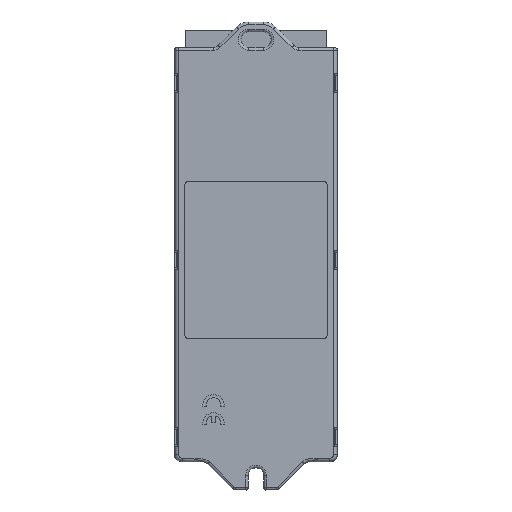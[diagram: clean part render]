
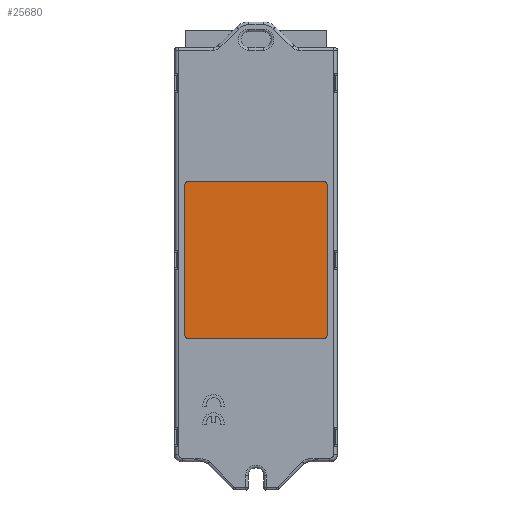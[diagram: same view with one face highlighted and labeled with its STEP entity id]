
A CAD part, front view. The second image highlights one B-rep face of the part: STEP entity #25680.
In plain terms, the highlighted planar face has unit normal (0, -1, 0).
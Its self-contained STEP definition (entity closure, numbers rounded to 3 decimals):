
#1735=CIRCLE('',#27720,1.);
#1737=CIRCLE('',#27724,1.);
#1738=CIRCLE('',#27727,1.);
#1739=CIRCLE('',#27728,1.);
#2910=FACE_OUTER_BOUND('',#4329,.T.);
#4329=EDGE_LOOP('',(#20771,#20772,#20773,#20774,#20775,#20776,#20777,#20778));
#6639=LINE('',#43149,#9024);
#6643=LINE('',#43161,#9028);
#6645=LINE('',#43165,#9030);
#6646=LINE('',#43169,#9031);
#9024=VECTOR('',#33596,10.);
#9028=VECTOR('',#33608,10.);
#9030=VECTOR('',#33612,10.);
#9031=VECTOR('',#33615,10.);
#11292=VERTEX_POINT('',#43140);
#11293=VERTEX_POINT('',#43142);
#11295=VERTEX_POINT('',#43148);
#11297=VERTEX_POINT('',#43154);
#11299=VERTEX_POINT('',#43160);
#11300=VERTEX_POINT('',#43164);
#11301=VERTEX_POINT('',#43166);
#11302=VERTEX_POINT('',#43168);
#14557=EDGE_CURVE('',#11292,#11293,#1735,.T.);
#14560=EDGE_CURVE('',#11293,#11295,#6639,.T.);
#14563=EDGE_CURVE('',#11295,#11297,#1737,.T.);
#14566=EDGE_CURVE('',#11297,#11299,#6643,.T.);
#14568=EDGE_CURVE('',#11300,#11292,#6645,.T.);
#14569=EDGE_CURVE('',#11301,#11300,#1738,.T.);
#14570=EDGE_CURVE('',#11302,#11301,#6646,.T.);
#14571=EDGE_CURVE('',#11299,#11302,#1739,.T.);
#20771=ORIENTED_EDGE('',*,*,#14566,.F.);
#20772=ORIENTED_EDGE('',*,*,#14563,.F.);
#20773=ORIENTED_EDGE('',*,*,#14560,.F.);
#20774=ORIENTED_EDGE('',*,*,#14557,.F.);
#20775=ORIENTED_EDGE('',*,*,#14568,.F.);
#20776=ORIENTED_EDGE('',*,*,#14569,.F.);
#20777=ORIENTED_EDGE('',*,*,#14570,.F.);
#20778=ORIENTED_EDGE('',*,*,#14571,.F.);
#23216=PLANE('',#27726);
#25680=ADVANCED_FACE('',(#2910),#23216,.T.);
#27720=AXIS2_PLACEMENT_3D('',#43143,#33590,#33591);
#27724=AXIS2_PLACEMENT_3D('',#43155,#33602,#33603);
#27726=AXIS2_PLACEMENT_3D('',#43163,#33610,#33611);
#27727=AXIS2_PLACEMENT_3D('',#43167,#33613,#33614);
#27728=AXIS2_PLACEMENT_3D('',#43170,#33616,#33617);
#33590=DIRECTION('center_axis',(0.,1.,0.));
#33591=DIRECTION('ref_axis',(-1.,0.,0.));
#33596=DIRECTION('',(0.,0.,1.));
#33602=DIRECTION('center_axis',(0.,1.,0.));
#33603=DIRECTION('ref_axis',(0.,0.,1.));
#33608=DIRECTION('',(1.,0.,0.));
#33610=DIRECTION('center_axis',(0.,-1.,0.));
#33611=DIRECTION('ref_axis',(0.,0.,-1.));
#33612=DIRECTION('',(-1.,0.,0.));
#33613=DIRECTION('center_axis',(0.,1.,0.));
#33614=DIRECTION('ref_axis',(0.,0.,-1.));
#33615=DIRECTION('',(0.,0.,-1.));
#33616=DIRECTION('center_axis',(0.,1.,0.));
#33617=DIRECTION('ref_axis',(1.,0.,0.));
#43140=CARTESIAN_POINT('',(-19.1,-7.35,-22.2));
#43142=CARTESIAN_POINT('',(-20.1,-7.35,-21.2));
#43143=CARTESIAN_POINT('Origin',(-19.1,-7.35,-21.2));
#43148=CARTESIAN_POINT('',(-20.1,-7.35,21.2));
#43149=CARTESIAN_POINT('',(-20.1,-7.35,21.2));
#43154=CARTESIAN_POINT('',(-19.1,-7.35,22.2));
#43155=CARTESIAN_POINT('Origin',(-19.1,-7.35,21.2));
#43160=CARTESIAN_POINT('',(19.1,-7.35,22.2));
#43161=CARTESIAN_POINT('',(19.1,-7.35,22.2));
#43163=CARTESIAN_POINT('Origin',(0.,-7.35,0.));
#43164=CARTESIAN_POINT('',(19.1,-7.35,-22.2));
#43165=CARTESIAN_POINT('',(-19.1,-7.35,-22.2));
#43166=CARTESIAN_POINT('',(20.1,-7.35,-21.2));
#43167=CARTESIAN_POINT('Origin',(19.1,-7.35,-21.2));
#43168=CARTESIAN_POINT('',(20.1,-7.35,21.2));
#43169=CARTESIAN_POINT('',(20.1,-7.35,-21.2));
#43170=CARTESIAN_POINT('Origin',(19.1,-7.35,21.2));
